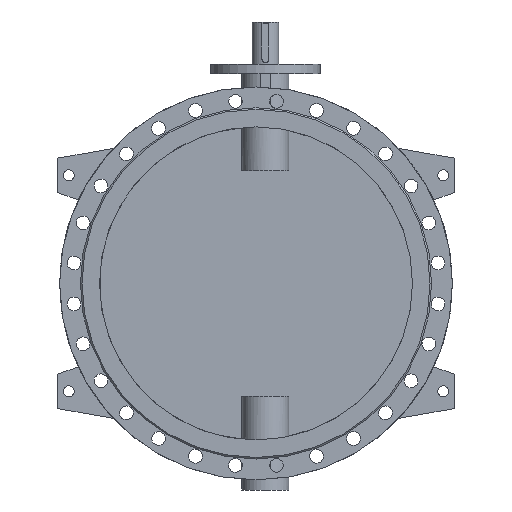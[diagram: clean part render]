
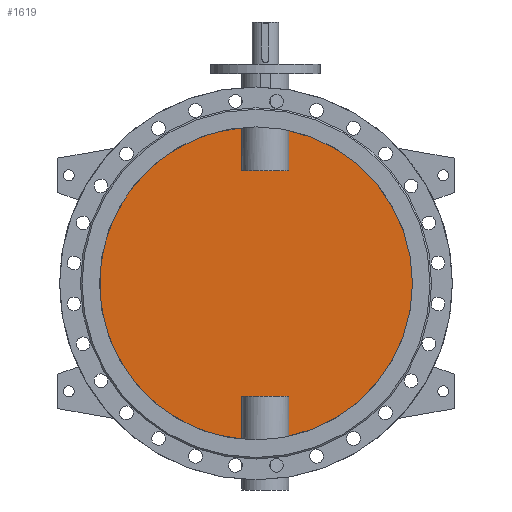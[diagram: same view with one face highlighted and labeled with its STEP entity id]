
A CAD part, front view. The second image highlights one B-rep face of the part: STEP entity #1619.
In plain terms, the highlighted planar face has unit normal (0, -1, 0).
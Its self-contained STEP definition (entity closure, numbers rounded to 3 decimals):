
#1619=ADVANCED_FACE('',(#3453),#3455,.F.);
#3453=FACE_BOUND('',#3454,.T.);
#3454=EDGE_LOOP('',(#4393,#4394,#4395,#4396,#4397,#4398,#4399,#4400));
#3455=PLANE('',#3456);
#3456=AXIS2_PLACEMENT_3D('',#3457,#3458,#3459);
#3457=CARTESIAN_POINT('',(0.,-5.,0.));
#3458=DIRECTION('',(0.,1.,0.));
#3459=DIRECTION('',(1.,0.,0.));
#4393=ORIENTED_EDGE('',*,*,#4863,.T.);
#4394=ORIENTED_EDGE('',*,*,#4879,.T.);
#4395=ORIENTED_EDGE('',*,*,#4880,.T.);
#4396=ORIENTED_EDGE('',*,*,#4881,.T.);
#4397=ORIENTED_EDGE('',*,*,#4865,.T.);
#4398=ORIENTED_EDGE('',*,*,#4882,.T.);
#4399=ORIENTED_EDGE('',*,*,#4883,.T.);
#4400=ORIENTED_EDGE('',*,*,#4884,.T.);
#4863=EDGE_CURVE('',#5631,#5632,#5633,.F.);
#4865=EDGE_CURVE('',#5636,#5634,#5637,.F.);
#4879=EDGE_CURVE('',#5632,#5663,#5664,.T.);
#4880=EDGE_CURVE('',#5663,#5665,#5666,.F.);
#4881=EDGE_CURVE('',#5665,#5636,#5667,.F.);
#4882=EDGE_CURVE('',#5634,#5668,#5669,.F.);
#4883=EDGE_CURVE('',#5668,#5670,#5671,.F.);
#4884=EDGE_CURVE('',#5670,#5631,#5672,.T.);
#5631=VERTEX_POINT('',#8131);
#5632=VERTEX_POINT('',#8132);
#5633=CIRCLE('',#8133,500.);
#5634=VERTEX_POINT('',#8137);
#5636=VERTEX_POINT('',#8235);
#5637=CIRCLE('',#8236,500.);
#5663=VERTEX_POINT('',#8633);
#5664=LINE('',#8634,#8635);
#5665=VERTEX_POINT('',#8637);
#5666=LINE('',#8638,#8639);
#5667=LINE('',#8641,#8642);
#5668=VERTEX_POINT('',#8644);
#5669=LINE('',#8645,#8646);
#5670=VERTEX_POINT('',#8648);
#5671=LINE('',#8649,#8650);
#5672=LINE('',#8652,#8653);
#8131=CARTESIAN_POINT('',(104.833,-5.,-488.887));
#8132=CARTESIAN_POINT('',(104.833,-5.,488.887));
#8133=AXIS2_PLACEMENT_3D('',#8134,#8135,#8136);
#8134=CARTESIAN_POINT('',(0.,-5.,0.));
#8135=DIRECTION('',(0.,1.,0.));
#8136=DIRECTION('',(0.21,0.,0.978));
#8137=CARTESIAN_POINT('',(-44.833,-5.,-497.986));
#8235=CARTESIAN_POINT('',(-44.833,-5.,497.986));
#8236=AXIS2_PLACEMENT_3D('',#8237,#8238,#8239);
#8237=CARTESIAN_POINT('',(0.,-5.,0.));
#8238=DIRECTION('',(0.,1.,0.));
#8239=DIRECTION('',(-0.09,0.,-0.996));
#8633=CARTESIAN_POINT('',(104.833,-5.,360.));
#8634=CARTESIAN_POINT('',(104.833,-5.,488.887));
#8635=VECTOR('',#8636,1.);
#8636=DIRECTION('',(0.,0.,-1.));
#8637=CARTESIAN_POINT('',(-44.833,-5.,360.));
#8638=CARTESIAN_POINT('',(-44.833,-5.,360.));
#8639=VECTOR('',#8640,1.);
#8640=DIRECTION('',(1.,0.,0.));
#8641=CARTESIAN_POINT('',(-44.833,-5.,497.986));
#8642=VECTOR('',#8643,1.);
#8643=DIRECTION('',(0.,0.,-1.));
#8644=CARTESIAN_POINT('',(-44.833,-5.,-360.));
#8645=CARTESIAN_POINT('',(-44.833,-5.,-360.));
#8646=VECTOR('',#8647,1.);
#8647=DIRECTION('',(0.,0.,-1.));
#8648=CARTESIAN_POINT('',(104.833,-5.,-360.));
#8649=CARTESIAN_POINT('',(104.833,-5.,-360.));
#8650=VECTOR('',#8651,1.);
#8651=DIRECTION('',(-1.,0.,0.));
#8652=CARTESIAN_POINT('',(104.833,-5.,-360.));
#8653=VECTOR('',#8654,1.);
#8654=DIRECTION('',(0.,0.,-1.));
